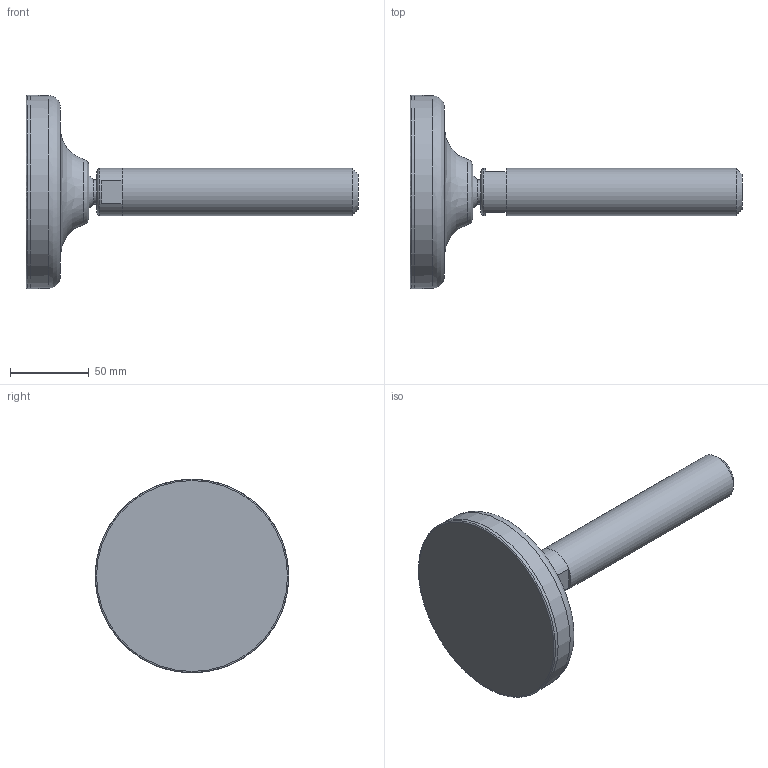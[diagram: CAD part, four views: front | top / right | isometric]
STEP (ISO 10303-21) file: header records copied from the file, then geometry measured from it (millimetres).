
FILE_DESCRIPTION(('STEP AP203'),'2;1');
FILE_NAME('10211.stp','2016-06-27T13:14:29',(''),(''),'2008.1.107','THINKDESIGN','');
FILE_SCHEMA(('CONFIG_CONTROL_DESIGN'));
Length unit declared in the file: millimetre
Bounding box: 211.03 x 123 x 123 mm (x, y, z)
Volume: 407675.8 mm3; surface area: 74692.7 mm2
Topology: 5 solids, 5 shells, 27 faces, 59 edges, 43 vertices
Faces by surface type: plane 15, bspline 8, cylinder 4
Full cylindrical faces by diameter (mm): 15.5 x1, 30 x2, 123 x1
Entity records: 1636 total; most frequent: CARTESIAN_POINT 923, DIRECTION 142, ORIENTED_EDGE 118, AXIS2_PLACEMENT_3D 64, EDGE_CURVE 59, CIRCLE 45, VERTEX_POINT 43, EDGE_LOOP 28
